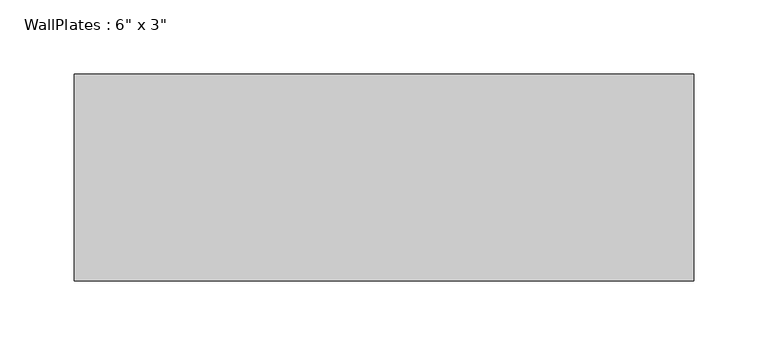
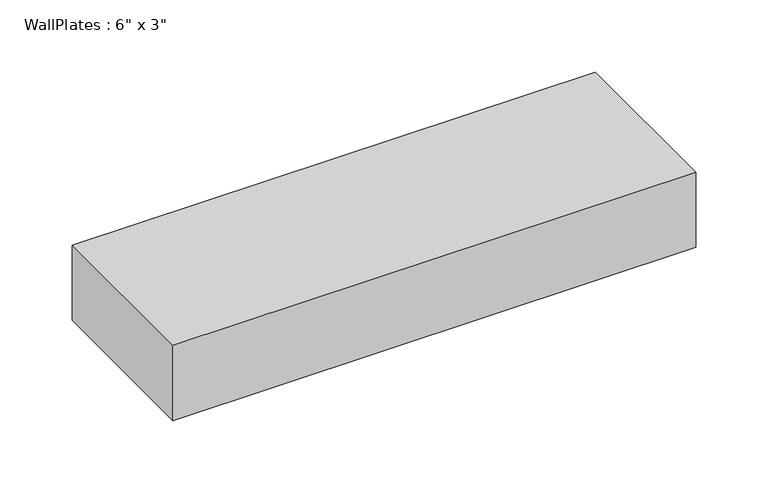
"""IFC4 building model written with IfcOpenShell, lengths in millimetres: beam geometry."""

from ifc_helpers import new_model, si_unit, frame, origin, place, context, project, spatial, polyline, outline, extrude, source, transform, mapped, element, save


def beam_1c1e8c08(model_context):
    return source(origin(), model_context, "Body", "SweptSolid", [
        extrude(outline(polyline([(-209.1241667, -69.85), (-209.1241667, 69.85), (209.1241667, 69.85), (209.1241667, -69.85), (-209.1241667, -69.85)])), frame((0.0, 0.0, -31.75), z_axis=(0.0, 0.0, 1.0), x_axis=(1.0, 0.0, 0.0)), (0.0, 0.0, 1.0), 63.5),
    ])


if __name__ == "__main__":
    model = new_model("IFC4")
    model_context = context("Model", 3, world=origin())
    ifc_project = project(units=[si_unit("LENGTHUNIT", "METRE", prefix="MILLI")], contexts=[model_context])
    site = spatial("IfcSite", under=ifc_project)
    building = spatial("IfcBuilding", under=site)
    placement = place(None, origin())
    beam_shape = beam_1c1e8c08(model_context)
    element("IfcBeam", 1, ObjectType="WallPlates : 6\" x 3\"", at=placement, inside=building, context=model_context, shape_type="MappedRepresentation", body=[
        mapped(beam_shape, transform((0.0, 0.0, 0.0), x_axis=(1.0, 0.0, 0.0), y_axis=(0.0, 1.0, 0.0), z_axis=(0.0, 0.0, 1.0))),
    ])
    save(model, "model.ifc")
